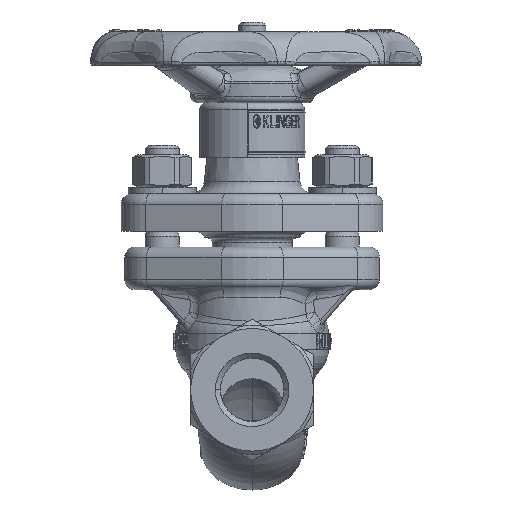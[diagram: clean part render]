
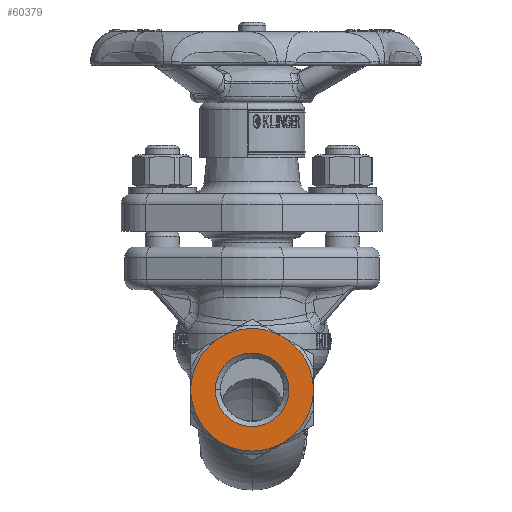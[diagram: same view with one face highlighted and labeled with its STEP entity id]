
A CAD part, left-side view. The second image highlights one B-rep face of the part: STEP entity #60379.
In plain terms, the highlighted planar face has unit normal (-1, 0, 0).
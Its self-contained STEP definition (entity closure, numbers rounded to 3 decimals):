
#12718=DIRECTION('',(0.,-0.866,0.5));
#12719=VECTOR('',#12718,2.699);
#12720=CARTESIAN_POINT('',(-50.,-7.831,-16.263));
#12721=LINE('',#12720,#12719);
#12743=CARTESIAN_POINT('',(-50.,0.,0.));
#12744=DIRECTION('',(1.,0.,0.));
#12745=DIRECTION('',(0.,-1.,0.));
#12746=AXIS2_PLACEMENT_3D('',#12743,#12744,#12745);
#12748=CARTESIAN_POINT('',(-50.,0.,0.));
#12749=DIRECTION('',(1.,0.,0.));
#12750=DIRECTION('',(0.,1.,0.));
#12751=AXIS2_PLACEMENT_3D('',#12748,#12749,#12750);
#12768=CARTESIAN_POINT('',(-50.,0.,0.));
#12769=DIRECTION('',(-1.,0.,0.));
#12770=DIRECTION('',(0.,0.434,-0.901));
#12771=AXIS2_PLACEMENT_3D('',#12768,#12769,#12770);
#12803=DIRECTION('',(0.,-0.866,-0.5));
#12804=VECTOR('',#12803,2.699);
#12805=CARTESIAN_POINT('',(-50.,10.169,-14.914));
#12806=LINE('',#12805,#12804);
#13086=DIRECTION('',(0.,0.,1.));
#13087=VECTOR('',#13086,2.699);
#13088=CARTESIAN_POINT('',(-50.,-18.,-1.349));
#13089=LINE('',#13088,#13087);
#13094=CARTESIAN_POINT('',(-50.,0.,0.));
#13095=DIRECTION('',(-1.,0.,0.));
#13096=DIRECTION('',(0.,-0.997,0.075));
#13097=AXIS2_PLACEMENT_3D('',#13094,#13095,#13096);
#13119=DIRECTION('',(0.,0.866,0.5));
#13120=VECTOR('',#13119,2.699);
#13121=CARTESIAN_POINT('',(-50.,-10.169,14.914));
#13122=LINE('',#13121,#13120);
#13127=CARTESIAN_POINT('',(-50.,0.,0.));
#13128=DIRECTION('',(-1.,0.,0.));
#13129=DIRECTION('',(0.,-0.434,0.901));
#13130=AXIS2_PLACEMENT_3D('',#13127,#13128,#13129);
#13157=DIRECTION('',(0.,0.866,-0.5));
#13158=VECTOR('',#13157,2.699);
#13159=CARTESIAN_POINT('',(-50.,7.831,16.263));
#13160=LINE('',#13159,#13158);
#13165=CARTESIAN_POINT('',(-50.,0.,0.));
#13166=DIRECTION('',(-1.,0.,0.));
#13167=DIRECTION('',(0.,0.563,0.826));
#13168=AXIS2_PLACEMENT_3D('',#13165,#13166,#13167);
#13190=DIRECTION('',(0.,0.,-1.));
#13191=VECTOR('',#13190,2.699);
#13192=CARTESIAN_POINT('',(-50.,18.,1.349));
#13193=LINE('',#13192,#13191);
#13198=CARTESIAN_POINT('',(-50.,0.,0.));
#13199=DIRECTION('',(-1.,0.,0.));
#13200=DIRECTION('',(0.,0.997,-0.075));
#13201=AXIS2_PLACEMENT_3D('',#13198,#13199,#13200);
#13343=CARTESIAN_POINT('',(-50.,0.,0.));
#13344=DIRECTION('',(-1.,0.,0.));
#13345=DIRECTION('',(0.,-0.563,-0.826));
#13346=AXIS2_PLACEMENT_3D('',#13343,#13344,#13345);
#29441=CARTESIAN_POINT('',(-50.,-10.816,0.));
#29442=CARTESIAN_POINT('',(-50.,10.816,0.));
#29443=VERTEX_POINT('',#29441);
#29444=VERTEX_POINT('',#29442);
#31304=CARTESIAN_POINT('',(-50.,7.831,16.263));
#31305=CARTESIAN_POINT('',(-50.,10.169,14.914));
#31306=VERTEX_POINT('',#31304);
#31307=VERTEX_POINT('',#31305);
#31312=CARTESIAN_POINT('',(-50.,18.,1.349));
#31313=CARTESIAN_POINT('',(-50.,18.,-1.349));
#31314=VERTEX_POINT('',#31312);
#31315=VERTEX_POINT('',#31313);
#31320=CARTESIAN_POINT('',(-50.,10.169,-14.914));
#31321=CARTESIAN_POINT('',(-50.,7.831,-16.263));
#31322=VERTEX_POINT('',#31320);
#31323=VERTEX_POINT('',#31321);
#31328=CARTESIAN_POINT('',(-50.,-7.831,-16.263));
#31329=CARTESIAN_POINT('',(-50.,-10.169,-14.914));
#31330=VERTEX_POINT('',#31328);
#31331=VERTEX_POINT('',#31329);
#31336=CARTESIAN_POINT('',(-50.,-18.,-1.349));
#31337=CARTESIAN_POINT('',(-50.,-18.,1.349));
#31338=VERTEX_POINT('',#31336);
#31339=VERTEX_POINT('',#31337);
#31344=CARTESIAN_POINT('',(-50.,-10.169,14.914));
#31345=CARTESIAN_POINT('',(-50.,-7.831,16.263));
#31346=VERTEX_POINT('',#31344);
#31347=VERTEX_POINT('',#31345);
#60343=CARTESIAN_POINT('',(-50.,0.,0.));
#60344=DIRECTION('',(-1.,0.,0.));
#60345=DIRECTION('',(0.,0.,1.));
#60346=AXIS2_PLACEMENT_3D('',#60343,#60344,#60345);
#60347=PLANE('',#60346);
#60349=ORIENTED_EDGE('',*,*,#60348,.F.);
#60351=ORIENTED_EDGE('',*,*,#60350,.F.);
#60353=ORIENTED_EDGE('',*,*,#60352,.F.);
#60355=ORIENTED_EDGE('',*,*,#60354,.F.);
#60357=ORIENTED_EDGE('',*,*,#60356,.F.);
#60359=ORIENTED_EDGE('',*,*,#60358,.F.);
#60361=ORIENTED_EDGE('',*,*,#60360,.F.);
#60363=ORIENTED_EDGE('',*,*,#60362,.F.);
#60365=ORIENTED_EDGE('',*,*,#60364,.F.);
#60367=ORIENTED_EDGE('',*,*,#60366,.F.);
#60369=ORIENTED_EDGE('',*,*,#60368,.F.);
#60370=ORIENTED_EDGE('',*,*,#60319,.F.);
#60371=EDGE_LOOP('',(#60349,#60351,#60353,#60355,#60357,#60359,#60361,#60363,
#60365,#60367,#60369,#60370));
#60372=FACE_OUTER_BOUND('',#60371,.F.);
#60374=ORIENTED_EDGE('',*,*,#60373,.F.);
#60376=ORIENTED_EDGE('',*,*,#60375,.F.);
#60377=EDGE_LOOP('',(#60374,#60376));
#60378=FACE_BOUND('',#60377,.F.);
#60379=ADVANCED_FACE('',(#60372,#60378),#60347,.T.);
#12747=CIRCLE('',#12746,10.816);
#12752=CIRCLE('',#12751,10.816);
#12772=CIRCLE('',#12771,18.051);
#13098=CIRCLE('',#13097,18.051);
#13131=CIRCLE('',#13130,18.051);
#13169=CIRCLE('',#13168,18.051);
#13202=CIRCLE('',#13201,18.051);
#13347=CIRCLE('',#13346,18.051);
#60319=EDGE_CURVE('',#31330,#31331,#12721,.T.);
#60348=EDGE_CURVE('',#31323,#31330,#12772,.T.);
#60350=EDGE_CURVE('',#31322,#31323,#12806,.T.);
#60352=EDGE_CURVE('',#31315,#31322,#13202,.T.);
#60354=EDGE_CURVE('',#31314,#31315,#13193,.T.);
#60356=EDGE_CURVE('',#31307,#31314,#13169,.T.);
#60358=EDGE_CURVE('',#31306,#31307,#13160,.T.);
#60360=EDGE_CURVE('',#31347,#31306,#13131,.T.);
#60362=EDGE_CURVE('',#31346,#31347,#13122,.T.);
#60364=EDGE_CURVE('',#31339,#31346,#13098,.T.);
#60366=EDGE_CURVE('',#31338,#31339,#13089,.T.);
#60368=EDGE_CURVE('',#31331,#31338,#13347,.T.);
#60373=EDGE_CURVE('',#29443,#29444,#12747,.T.);
#60375=EDGE_CURVE('',#29444,#29443,#12752,.T.);
